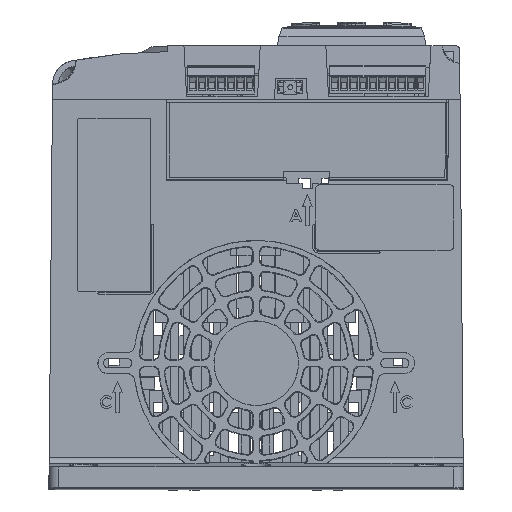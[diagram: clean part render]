
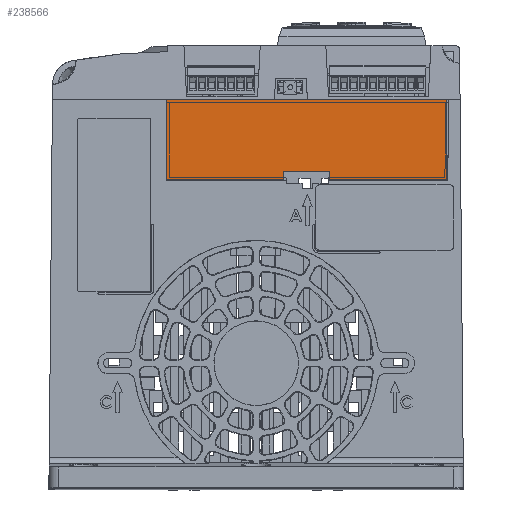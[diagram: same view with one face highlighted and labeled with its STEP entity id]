
A CAD part, top view. The second image highlights one B-rep face of the part: STEP entity #238566.
In plain terms, the highlighted planar face has unit normal (0, 0, 1).
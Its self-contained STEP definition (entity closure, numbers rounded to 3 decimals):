
#8557 = ORIENTED_EDGE ( 'NONE', *, *, #245347, .T. ) ;
#19986 = ORIENTED_EDGE ( 'NONE', *, *, #75866, .T. ) ;
#20956 = DIRECTION ( 'NONE',  ( 1., 0., 0. ) ) ;
#23941 = CARTESIAN_POINT ( 'NONE',  ( -74.1, 40.25, 0. ) ) ;
#26298 = CARTESIAN_POINT ( 'NONE',  ( -74.1, 2.75, 0. ) ) ;
#32584 = ORIENTED_EDGE ( 'NONE', *, *, #80732, .T. ) ;
#35712 = VECTOR ( 'NONE', #43723, 1000. ) ;
#36082 = CARTESIAN_POINT ( 'NONE',  ( -75.5, 40.25, 0. ) ) ;
#36141 = CARTESIAN_POINT ( 'NONE',  ( 9.5, -1.5, 0. ) ) ;
#36666 = LINE ( 'NONE', #23941, #35712 ) ;
#42411 = LINE ( 'NONE', #197364, #42663 ) ;
#42663 = VECTOR ( 'NONE', #20956, 1000. ) ;
#43723 = DIRECTION ( 'NONE',  ( -1., 0., 0. ) ) ;
#46089 = DIRECTION ( 'NONE',  ( 1., 0., 0. ) ) ;
#52134 = DIRECTION ( 'NONE',  ( 0., 1., 0. ) ) ;
#52163 = VECTOR ( 'NONE', #84957, 1000. ) ;
#57679 = LINE ( 'NONE', #220286, #52163 ) ;
#68341 = DIRECTION ( 'NONE',  ( 1., 0., 0. ) ) ;
#75866 = EDGE_CURVE ( 'NONE', #138092, #153422, #57679, .T. ) ;
#80732 = EDGE_CURVE ( 'NONE', #153422, #182457, #120401, .T. ) ;
#81765 = AXIS2_PLACEMENT_3D ( 'NONE', #94165, #229389, #113723 ) ;
#83761 = ORIENTED_EDGE ( 'NONE', *, *, #226051, .T. ) ;
#84957 = DIRECTION ( 'NONE',  ( 0., -1., 0. ) ) ;
#85386 = EDGE_CURVE ( 'NONE', #171039, #222654, #36666, .T. ) ;
#86028 = CARTESIAN_POINT ( 'NONE',  ( -14.5, 2.75, 0. ) ) ;
#87365 = DIRECTION ( 'NONE',  ( 0., -1., 0. ) ) ;
#90536 = DIRECTION ( 'NONE',  ( 0., 1., 0. ) ) ;
#94165 = CARTESIAN_POINT ( 'NONE',  ( -74.1, 0., 0. ) ) ;
#105061 = VERTEX_POINT ( 'NONE', #222677 ) ;
#106038 = VERTEX_POINT ( 'NONE', #86028 ) ;
#108293 = EDGE_CURVE ( 'NONE', #222654, #105061, #224329, .T. ) ;
#113723 = DIRECTION ( 'NONE',  ( 1., 0., 0. ) ) ;
#115572 = VERTEX_POINT ( 'NONE', #117405 ) ;
#117405 = CARTESIAN_POINT ( 'NONE',  ( -14.5, -1.5, 0. ) ) ;
#118622 = CARTESIAN_POINT ( 'NONE',  ( 9.5, 2.75, 0. ) ) ;
#120401 = LINE ( 'NONE', #245775, #227760 ) ;
#129591 = CARTESIAN_POINT ( 'NONE',  ( -14.5, 0., 0. ) ) ;
#132328 = PLANE ( 'NONE',  #81765 ) ;
#138092 = VERTEX_POINT ( 'NONE', #118622 ) ;
#153422 = VERTEX_POINT ( 'NONE', #36141 ) ;
#162270 = LINE ( 'NONE', #168016, #184627 ) ;
#164838 = EDGE_CURVE ( 'NONE', #115572, #106038, #241859, .T. ) ;
#168016 = CARTESIAN_POINT ( 'NONE',  ( 70.5, 0., 0. ) ) ;
#169038 = FACE_OUTER_BOUND ( 'NONE', #220675, .T. ) ;
#171039 = VERTEX_POINT ( 'NONE', #223226 ) ;
#175594 = CARTESIAN_POINT ( 'NONE',  ( 70.5, -1.5, 0. ) ) ;
#182457 = VERTEX_POINT ( 'NONE', #175594 ) ;
#184627 = VECTOR ( 'NONE', #52134, 1000. ) ;
#188537 = ORIENTED_EDGE ( 'NONE', *, *, #108293, .T. ) ;
#196908 = ORIENTED_EDGE ( 'NONE', *, *, #164838, .T. ) ;
#197364 = CARTESIAN_POINT ( 'NONE',  ( -74.1, -1.5, 0. ) ) ;
#200611 = LINE ( 'NONE', #26298, #202478 ) ;
#202478 = VECTOR ( 'NONE', #46089, 1000. ) ;
#220286 = CARTESIAN_POINT ( 'NONE',  ( 9.5, 0., 0. ) ) ;
#220675 = EDGE_LOOP ( 'NONE', ( #83761, #248514, #188537, #8557, #196908, #230671, #19986, #32584 ) ) ;
#221863 = CARTESIAN_POINT ( 'NONE',  ( -75.5, 0., 0. ) ) ;
#222383 = VECTOR ( 'NONE', #87365, 1000. ) ;
#222654 = VERTEX_POINT ( 'NONE', #36082 ) ;
#222677 = CARTESIAN_POINT ( 'NONE',  ( -75.5, -1.5, 0. ) ) ;
#223226 = CARTESIAN_POINT ( 'NONE',  ( 70.5, 40.25, 0. ) ) ;
#224329 = LINE ( 'NONE', #221863, #222383 ) ;
#226051 = EDGE_CURVE ( 'NONE', #182457, #171039, #162270, .T. ) ;
#227760 = VECTOR ( 'NONE', #68341, 1000. ) ;
#229226 = EDGE_CURVE ( 'NONE', #106038, #138092, #200611, .T. ) ;
#229389 = DIRECTION ( 'NONE',  ( 0., 0., 1. ) ) ;
#230671 = ORIENTED_EDGE ( 'NONE', *, *, #229226, .T. ) ;
#238566 = ADVANCED_FACE ( 'NONE', ( #169038 ), #132328, .T. ) ;
#238693 = VECTOR ( 'NONE', #90536, 1000. ) ;
#241859 = LINE ( 'NONE', #129591, #238693 ) ;
#245347 = EDGE_CURVE ( 'NONE', #105061, #115572, #42411, .T. ) ;
#245775 = CARTESIAN_POINT ( 'NONE',  ( -74.1, -1.5, 0. ) ) ;
#248514 = ORIENTED_EDGE ( 'NONE', *, *, #85386, .T. ) ;
